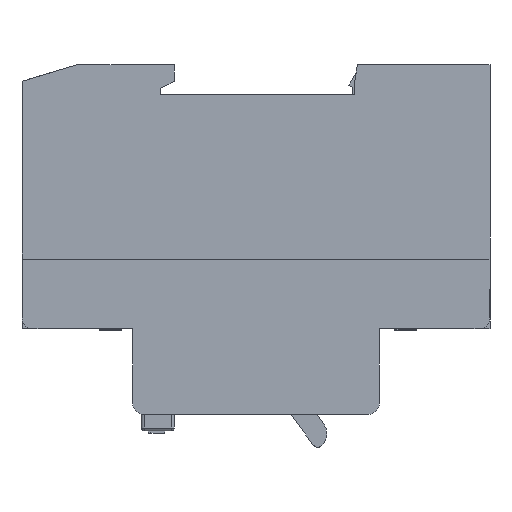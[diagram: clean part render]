
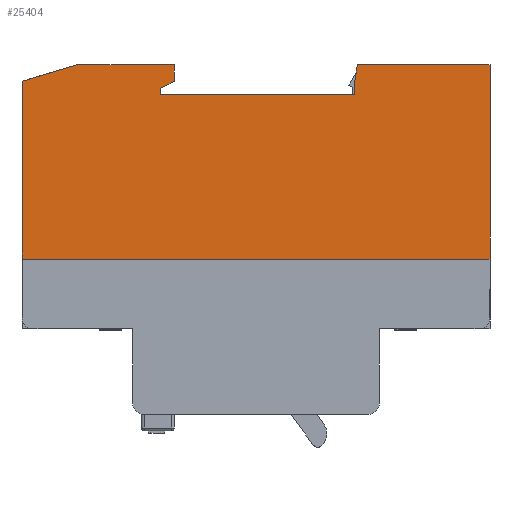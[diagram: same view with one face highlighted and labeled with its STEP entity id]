
A CAD part, left-side view. The second image highlights one B-rep face of the part: STEP entity #25404.
In plain terms, the highlighted planar face has unit normal (-1, 0, 0).
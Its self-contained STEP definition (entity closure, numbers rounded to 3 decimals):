
#3513 = CARTESIAN_POINT ( 'NONE',  ( 0., 0., 0. ) ) ;
#3514 = CARTESIAN_POINT ( 'NONE',  ( 0., 0., -35.4 ) ) ;
#3542 = CARTESIAN_POINT ( 'NONE',  ( 0., 57.55, -3. ) ) ;
#3545 = CARTESIAN_POINT ( 'NONE',  ( 0., 57.55, 0. ) ) ;
#3546 = CARTESIAN_POINT ( 'NONE',  ( 0., 60.05, -4.3 ) ) ;
#3569 = CARTESIAN_POINT ( 'NONE',  ( 0., 24.15, 0. ) ) ;
#3570 = CARTESIAN_POINT ( 'NONE',  ( 0., 24.65, -3. ) ) ;
#3573 = CARTESIAN_POINT ( 'NONE',  ( 0., 24.65, -5.5 ) ) ;
#3574 = CARTESIAN_POINT ( 'NONE',  ( 0., 75.3, 0. ) ) ;
#3615 = CARTESIAN_POINT ( 'NONE',  ( 0., 85.3, -35.4 ) ) ;
#3616 = CARTESIAN_POINT ( 'NONE',  ( 0., 85.3, -3. ) ) ;
#11885 = PLANE ( 'NONE',  #12452 ) ;
#11886 = CARTESIAN_POINT ( 'NONE',  ( 0., 0., 0. ) ) ;
#11887 = DIRECTION ( 'NONE',  ( 1., 0., 0. ) ) ;
#11888 = DIRECTION ( 'NONE',  ( 0., 0., -1. ) ) ;
#12445 = FACE_OUTER_BOUND ( 'NONE', #29127, .T. ) ;
#12452 = AXIS2_PLACEMENT_3D ( 'NONE', #11886, #11887, #11888 ) ;
#12908 = VECTOR ( 'NONE', #13749, 1000. ) ;
#13747 = LINE ( 'NONE', #13748, #12908 ) ;
#13748 = CARTESIAN_POINT ( 'NONE',  ( 0., 0., 0. ) ) ;
#13749 = DIRECTION ( 'NONE',  ( 0., 0., -1. ) ) ;
#13858 = LINE ( 'NONE', #13859, #14113 ) ;
#13859 = CARTESIAN_POINT ( 'NONE',  ( 0., 57.55, -3. ) ) ;
#13860 = DIRECTION ( 'NONE',  ( 0., 0., 1. ) ) ;
#13867 = LINE ( 'NONE', #13868, #14116 ) ;
#13868 = CARTESIAN_POINT ( 'NONE',  ( 0., 60.05, -4.3 ) ) ;
#13869 = DIRECTION ( 'NONE',  ( 0., -0.887, 0.461 ) ) ;
#13939 = LINE ( 'NONE', #13940, #14140 ) ;
#13940 = CARTESIAN_POINT ( 'NONE',  ( 0., 85.3, 0. ) ) ;
#13941 = DIRECTION ( 'NONE',  ( 0., -1., 0. ) ) ;
#13951 = LINE ( 'NONE', #13952, #14144 ) ;
#13952 = CARTESIAN_POINT ( 'NONE',  ( 0., 24.65, -3. ) ) ;
#13953 = DIRECTION ( 'NONE',  ( 0., 0., -1. ) ) ;
#13957 = LINE ( 'NONE', #13958, #14146 ) ;
#13958 = CARTESIAN_POINT ( 'NONE',  ( 0., 24.15, 0. ) ) ;
#13959 = DIRECTION ( 'NONE',  ( 0., 0.164, -0.986 ) ) ;
#13966 = LINE ( 'NONE', #13967, #14149 ) ;
#13967 = CARTESIAN_POINT ( 'NONE',  ( 0., 85.3, 0. ) ) ;
#13968 = DIRECTION ( 'NONE',  ( 0., -1., 0. ) ) ;
#14113 = VECTOR ( 'NONE', #13860, 1000. ) ;
#14116 = VECTOR ( 'NONE', #13869, 1000. ) ;
#14140 = VECTOR ( 'NONE', #13941, 1000. ) ;
#14144 = VECTOR ( 'NONE', #13953, 1000. ) ;
#14146 = VECTOR ( 'NONE', #13959, 1000. ) ;
#14149 = VECTOR ( 'NONE', #13968, 1000. ) ;
#14201 = VECTOR ( 'NONE', #14729, 1000. ) ;
#14219 = VECTOR ( 'NONE', #14783, 1000. ) ;
#14220 = VECTOR ( 'NONE', #14786, 1000. ) ;
#14221 = VECTOR ( 'NONE', #14789, 1000. ) ;
#14222 = VECTOR ( 'NONE', #14792, 1000. ) ;
#14727 = LINE ( 'NONE', #14728, #14201 ) ;
#14728 = CARTESIAN_POINT ( 'NONE',  ( 0., 85.3, -37.7 ) ) ;
#14729 = DIRECTION ( 'NONE',  ( 0., 0., 1. ) ) ;
#14781 = LINE ( 'NONE', #14782, #14219 ) ;
#14782 = CARTESIAN_POINT ( 'NONE',  ( 0., 0., -35.4 ) ) ;
#14783 = DIRECTION ( 'NONE',  ( 0., 1., 0. ) ) ;
#14784 = LINE ( 'NONE', #14785, #14220 ) ;
#14785 = CARTESIAN_POINT ( 'NONE',  ( 0., 24.65, -5.5 ) ) ;
#14786 = DIRECTION ( 'NONE',  ( 0., 1., 0. ) ) ;
#14787 = LINE ( 'NONE', #14788, #14221 ) ;
#14788 = CARTESIAN_POINT ( 'NONE',  ( 0., 60.05, -5.5 ) ) ;
#14789 = DIRECTION ( 'NONE',  ( 0., 0., 1. ) ) ;
#14790 = LINE ( 'NONE', #14791, #14222 ) ;
#14791 = CARTESIAN_POINT ( 'NONE',  ( 0., 85.3, -3. ) ) ;
#14792 = DIRECTION ( 'NONE',  ( 0., 0.958, -0.287 ) ) ;
#15856 = CARTESIAN_POINT ( 'NONE',  ( 0., 60.05, -5.5 ) ) ;
#20332 = VERTEX_POINT ( 'NONE', #3513 ) ;
#20333 = VERTEX_POINT ( 'NONE', #3514 ) ;
#20361 = VERTEX_POINT ( 'NONE', #3542 ) ;
#20364 = VERTEX_POINT ( 'NONE', #3545 ) ;
#20365 = VERTEX_POINT ( 'NONE', #3546 ) ;
#20388 = VERTEX_POINT ( 'NONE', #3569 ) ;
#20389 = VERTEX_POINT ( 'NONE', #3570 ) ;
#20392 = VERTEX_POINT ( 'NONE', #3573 ) ;
#20393 = VERTEX_POINT ( 'NONE', #3574 ) ;
#20434 = VERTEX_POINT ( 'NONE', #3615 ) ;
#20435 = VERTEX_POINT ( 'NONE', #3616 ) ;
#25404 = ADVANCED_FACE ( 'NONE', ( #12445 ), #11885, .F. ) ;
#26904 = EDGE_CURVE ( 'NONE', #20332, #20333, #13747, .T. ) ;
#26941 = EDGE_CURVE ( 'NONE', #20361, #20364, #13858, .T. ) ;
#26944 = EDGE_CURVE ( 'NONE', #20365, #20361, #13867, .T. ) ;
#26968 = EDGE_CURVE ( 'NONE', #20388, #20332, #13939, .T. ) ;
#26972 = EDGE_CURVE ( 'NONE', #20389, #20392, #13951, .T. ) ;
#26974 = EDGE_CURVE ( 'NONE', #20388, #20389, #13957, .T. ) ;
#26977 = EDGE_CURVE ( 'NONE', #20393, #20364, #13966, .T. ) ;
#27028 = EDGE_CURVE ( 'NONE', #20434, #20435, #14727, .T. ) ;
#27046 = EDGE_CURVE ( 'NONE', #20333, #20434, #14781, .T. ) ;
#27047 = EDGE_CURVE ( 'NONE', #20392, #27918, #14784, .T. ) ;
#27048 = EDGE_CURVE ( 'NONE', #27918, #20365, #14787, .T. ) ;
#27049 = EDGE_CURVE ( 'NONE', #20393, #20435, #14790, .T. ) ;
#27889 = ORIENTED_EDGE ( 'NONE', *, *, #26904, .F. ) ;
#27891 = ORIENTED_EDGE ( 'NONE', *, *, #27028, .F. ) ;
#27892 = ORIENTED_EDGE ( 'NONE', *, *, #27046, .F. ) ;
#27893 = ORIENTED_EDGE ( 'NONE', *, *, #26974, .T. ) ;
#27894 = ORIENTED_EDGE ( 'NONE', *, *, #26968, .F. ) ;
#27895 = ORIENTED_EDGE ( 'NONE', *, *, #26972, .T. ) ;
#27896 = ORIENTED_EDGE ( 'NONE', *, *, #27047, .T. ) ;
#27897 = ORIENTED_EDGE ( 'NONE', *, *, #26944, .T. ) ;
#27898 = ORIENTED_EDGE ( 'NONE', *, *, #27048, .T. ) ;
#27899 = ORIENTED_EDGE ( 'NONE', *, *, #26977, .F. ) ;
#27900 = ORIENTED_EDGE ( 'NONE', *, *, #26941, .T. ) ;
#27901 = ORIENTED_EDGE ( 'NONE', *, *, #27049, .T. ) ;
#27918 = VERTEX_POINT ( 'NONE', #15856 ) ;
#29127 = EDGE_LOOP ( 'NONE', ( #27891, #27892, #27889, #27894, #27893, #27895, #27896, #27898, #27897, #27900, #27899, #27901 ) ) ;
